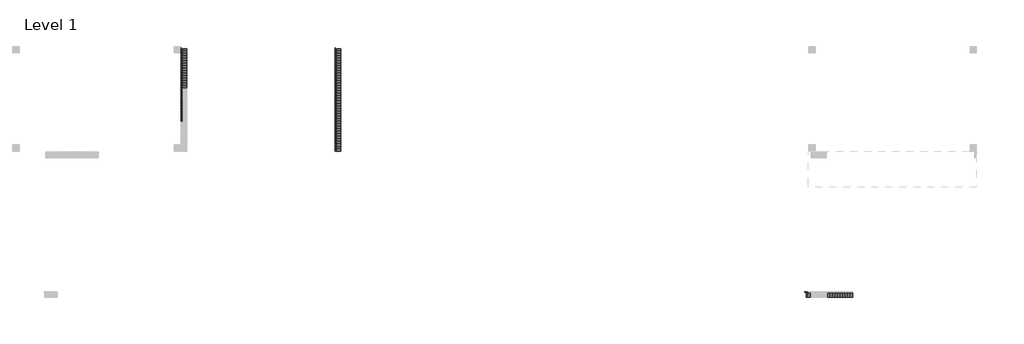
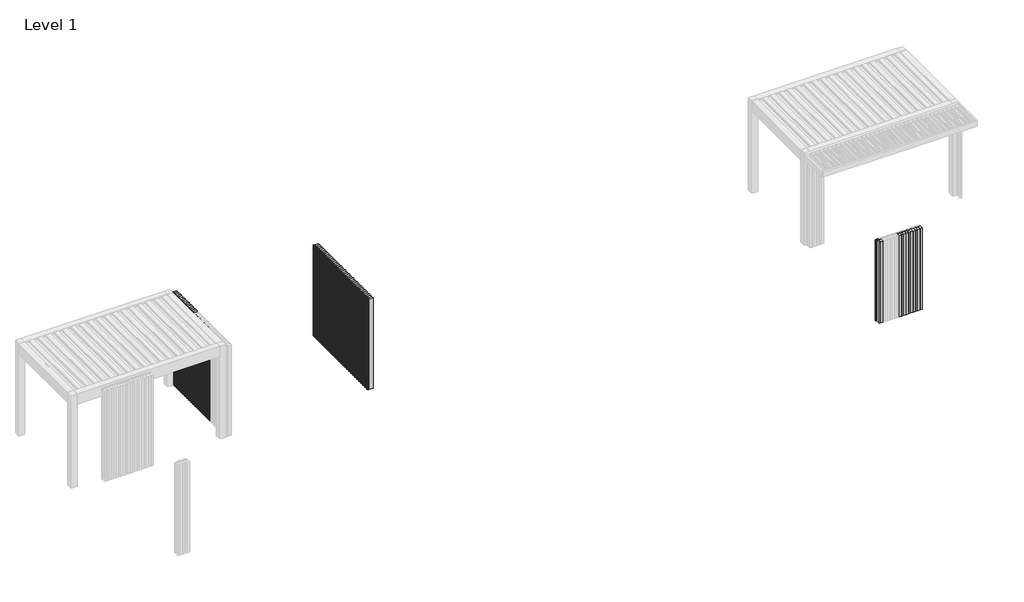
# One storey, part 2 of 80: 71 members, 69 plates.
"""IFC4 building model written with IfcOpenShell, lengths in millimetres."""

from ifc_helpers import new_model, si_unit, origin, place, context, project, spatial, transform, mapped, element, save
from components import rectangular_mullion_776733ef, rectangular_mullion_087e8397, rectangular_mullion_0795b381, empty_system_panel_empty_5508d8ad, empty_system_panel_empty_aff67664, empty_system_panel_empty_7c19e3ee, empty_system_panel_empty_b4a5b46b, empty_system_panel_empty_2ee623c3

model = new_model("IFC4")

# Units and contexts
model_context = context("Model", 3, world=origin())
ifc_project = project(units=[si_unit("LENGTHUNIT", "METRE", prefix="MILLI")], contexts=[model_context])

# Site, building, storey
site = spatial("IfcSite", under=ifc_project)
building = spatial("IfcBuilding", under=site)
storey = spatial("IfcBuildingStorey", under=building, Name="Level 1", Elevation=0.0)

# Members
placement = place(None, origin())
rectangular_mullion_shape = rectangular_mullion_776733ef(model_context)
element("IfcMember", 1, ObjectType="Rectangular Mullion : Renson_Linarte_LA-E25-01 Zone B", at=placement, inside=storey, context=model_context, shape_type="MappedRepresentation", body=[
    mapped(rectangular_mullion_shape, transform((386975.5749426, -17757.8406312, 0.0), x_axis=(0.0, 1.0, 0.0), y_axis=(1.0, 0.0, 0.0), z_axis=(0.0, 0.0, -1.0))),
])
element("IfcMember", 2, ObjectType="Rectangular Mullion : Renson_Linarte_LA-E25-01 Zone B", at=placement, inside=storey, context=model_context, shape_type="MappedRepresentation", body=[
    mapped(rectangular_mullion_shape, transform((386975.5749426, -17697.8406312, 0.0), x_axis=(0.0, 1.0, 0.0), y_axis=(1.0, 0.0, 0.0), z_axis=(0.0, 0.0, -1.0))),
])
element("IfcMember", 3, ObjectType="Rectangular Mullion : Renson_Linarte_LA-E25-01 Zone B", at=placement, inside=storey, context=model_context, shape_type="MappedRepresentation", body=[
    mapped(rectangular_mullion_shape, transform((386975.5749426, -17637.8406312, 0.0), x_axis=(0.0, 1.0, 0.0), y_axis=(1.0, 0.0, 0.0), z_axis=(0.0, 0.0, -1.0))),
])
element("IfcMember", 4, ObjectType="Rectangular Mullion : Renson_Linarte_LA-E25-01 Zone B", at=placement, inside=storey, context=model_context, shape_type="MappedRepresentation", body=[
    mapped(rectangular_mullion_shape, transform((386975.5749426, -17577.8406312, 0.0), x_axis=(0.0, 1.0, 0.0), y_axis=(1.0, 0.0, 0.0), z_axis=(0.0, 0.0, -1.0))),
])
element("IfcMember", 5, ObjectType="Rectangular Mullion : Renson_Linarte_LA-E25-01 Zone B", at=placement, inside=storey, context=model_context, shape_type="MappedRepresentation", body=[
    mapped(rectangular_mullion_shape, transform((386975.5749426, -17517.8406312, 0.0), x_axis=(0.0, 1.0, 0.0), y_axis=(1.0, 0.0, 0.0), z_axis=(0.0, 0.0, -1.0))),
])
element("IfcMember", 6, ObjectType="Rectangular Mullion : Renson_Linarte_LA-E25-01 Zone B", at=placement, inside=storey, context=model_context, shape_type="MappedRepresentation", body=[
    mapped(rectangular_mullion_shape, transform((386975.5749426, -17457.8406312, 0.0), x_axis=(0.0, 1.0, 0.0), y_axis=(1.0, 0.0, 0.0), z_axis=(0.0, 0.0, -1.0))),
])
element("IfcMember", 7, ObjectType="Rectangular Mullion : Renson_Linarte_LA-E25-01 Zone B", at=placement, inside=storey, context=model_context, shape_type="MappedRepresentation", body=[
    mapped(rectangular_mullion_shape, transform((386975.5749426, -17397.8406312, 0.0), x_axis=(0.0, 1.0, 0.0), y_axis=(1.0, 0.0, 0.0), z_axis=(0.0, 0.0, -1.0))),
])
element("IfcMember", 8, ObjectType="Rectangular Mullion : Renson_Linarte_LA-E25-01 Zone B", at=placement, inside=storey, context=model_context, shape_type="MappedRepresentation", body=[
    mapped(rectangular_mullion_shape, transform((386975.5749426, -17337.8406312, 0.0), x_axis=(0.0, 1.0, 0.0), y_axis=(1.0, 0.0, 0.0), z_axis=(0.0, 0.0, -1.0))),
])
element("IfcMember", 9, ObjectType="Rectangular Mullion : Renson_Linarte_LA-E25-01 Zone B", at=placement, inside=storey, context=model_context, shape_type="MappedRepresentation", body=[
    mapped(rectangular_mullion_shape, transform((386975.5749426, -17277.8406312, 0.0), x_axis=(0.0, 1.0, 0.0), y_axis=(1.0, 0.0, 0.0), z_axis=(0.0, 0.0, -1.0))),
])
element("IfcMember", 10, ObjectType="Rectangular Mullion : Renson_Linarte_LA-E25-01 Zone B", at=placement, inside=storey, context=model_context, shape_type="MappedRepresentation", body=[
    mapped(rectangular_mullion_shape, transform((386975.5749426, -17217.8406312, 0.0), x_axis=(0.0, 1.0, 0.0), y_axis=(1.0, 0.0, 0.0), z_axis=(0.0, 0.0, -1.0))),
])
element("IfcMember", 11, ObjectType="Rectangular Mullion : Renson_Linarte_LA-E25-01 Zone B", at=placement, inside=storey, context=model_context, shape_type="MappedRepresentation", body=[
    mapped(rectangular_mullion_shape, transform((386975.5749426, -17157.8406312, 0.0), x_axis=(0.0, 1.0, 0.0), y_axis=(1.0, 0.0, 0.0), z_axis=(0.0, 0.0, -1.0))),
])
element("IfcMember", 12, ObjectType="Rectangular Mullion : Renson_Linarte_LA-E25-01 Zone B", at=placement, inside=storey, context=model_context, shape_type="MappedRepresentation", body=[
    mapped(rectangular_mullion_shape, transform((386975.5749426, -17097.8406312, 0.0), x_axis=(0.0, 1.0, 0.0), y_axis=(1.0, 0.0, 0.0), z_axis=(0.0, 0.0, -1.0))),
])
element("IfcMember", 13, ObjectType="Rectangular Mullion : Renson_Linarte_LA-E25-01 Zone B", at=placement, inside=storey, context=model_context, shape_type="MappedRepresentation", body=[
    mapped(rectangular_mullion_shape, transform((386975.5749426, -17037.8406312, 0.0), x_axis=(0.0, 1.0, 0.0), y_axis=(1.0, 0.0, 0.0), z_axis=(0.0, 0.0, -1.0))),
])
element("IfcMember", 14, ObjectType="Rectangular Mullion : Renson_Linarte_LA-E25-01 Zone B", at=placement, inside=storey, context=model_context, shape_type="MappedRepresentation", body=[
    mapped(rectangular_mullion_shape, transform((386975.5749426, -16977.8406312, 0.0), x_axis=(0.0, 1.0, 0.0), y_axis=(1.0, 0.0, 0.0), z_axis=(0.0, 0.0, -1.0))),
])
element("IfcMember", 15, ObjectType="Rectangular Mullion : Renson_Linarte_LA-E25-01 Zone B", at=placement, inside=storey, context=model_context, shape_type="MappedRepresentation", body=[
    mapped(rectangular_mullion_shape, transform((386975.5749426, -16917.8406312, 0.0), x_axis=(0.0, 1.0, 0.0), y_axis=(1.0, 0.0, 0.0), z_axis=(0.0, 0.0, -1.0))),
])
element("IfcMember", 16, ObjectType="Rectangular Mullion : Renson_Linarte_LA-E25-01 Zone B", at=placement, inside=storey, context=model_context, shape_type="MappedRepresentation", body=[
    mapped(rectangular_mullion_shape, transform((386975.5749426, -16857.8406312, 0.0), x_axis=(0.0, 1.0, 0.0), y_axis=(1.0, 0.0, 0.0), z_axis=(0.0, 0.0, -1.0))),
])
element("IfcMember", 17, ObjectType="Rectangular Mullion : Renson_Linarte_LA-E25-01 Zone B", at=placement, inside=storey, context=model_context, shape_type="MappedRepresentation", body=[
    mapped(rectangular_mullion_shape, transform((386975.5749426, -16797.8406312, 0.0), x_axis=(0.0, 1.0, 0.0), y_axis=(1.0, 0.0, 0.0), z_axis=(0.0, 0.0, -1.0))),
])
element("IfcMember", 18, ObjectType="Rectangular Mullion : Renson_Linarte_LA-E25-01 Zone B", at=placement, inside=storey, context=model_context, shape_type="MappedRepresentation", body=[
    mapped(rectangular_mullion_shape, transform((386975.5749426, -16737.8406312, 0.0), x_axis=(0.0, 1.0, 0.0), y_axis=(1.0, 0.0, 0.0), z_axis=(0.0, 0.0, -1.0))),
])
element("IfcMember", 19, ObjectType="Rectangular Mullion : Renson_Linarte_LA-E25-01 Zone B", at=placement, inside=storey, context=model_context, shape_type="MappedRepresentation", body=[
    mapped(rectangular_mullion_shape, transform((386975.5749426, -16677.8406312, 0.0), x_axis=(0.0, 1.0, 0.0), y_axis=(1.0, 0.0, 0.0), z_axis=(0.0, 0.0, -1.0))),
])
element("IfcMember", 20, ObjectType="Rectangular Mullion : Renson_Linarte_LA-E25-01 Zone B", at=placement, inside=storey, context=model_context, shape_type="MappedRepresentation", body=[
    mapped(rectangular_mullion_shape, transform((386975.5749426, -16617.8406312, 0.0), x_axis=(0.0, 1.0, 0.0), y_axis=(1.0, 0.0, 0.0), z_axis=(0.0, 0.0, -1.0))),
])
element("IfcMember", 21, ObjectType="Rectangular Mullion : Renson_Linarte_LA-E25-01 Zone B", at=placement, inside=storey, context=model_context, shape_type="MappedRepresentation", body=[
    mapped(rectangular_mullion_shape, transform((386975.5749426, -16557.8406312, 0.0), x_axis=(0.0, 1.0, 0.0), y_axis=(1.0, 0.0, 0.0), z_axis=(0.0, 0.0, -1.0))),
])
element("IfcMember", 22, ObjectType="Rectangular Mullion : Renson_Linarte_LA-E25-01 Zone B", at=placement, inside=storey, context=model_context, shape_type="MappedRepresentation", body=[
    mapped(rectangular_mullion_shape, transform((386975.5749426, -16497.8406312, 0.0), x_axis=(0.0, 1.0, 0.0), y_axis=(1.0, 0.0, 0.0), z_axis=(0.0, 0.0, -1.0))),
])
element("IfcMember", 23, ObjectType="Rectangular Mullion : Renson_Linarte_LA-E25-01 Zone B", at=placement, inside=storey, context=model_context, shape_type="MappedRepresentation", body=[
    mapped(rectangular_mullion_shape, transform((386975.5749426, -16437.8406312, 0.0), x_axis=(0.0, 1.0, 0.0), y_axis=(1.0, 0.0, 0.0), z_axis=(0.0, 0.0, -1.0))),
])
element("IfcMember", 24, ObjectType="Rectangular Mullion : Renson_Linarte_LA-E25-01 Zone B", at=placement, inside=storey, context=model_context, shape_type="MappedRepresentation", body=[
    mapped(rectangular_mullion_shape, transform((386975.5749426, -16377.8406312, 0.0), x_axis=(0.0, 1.0, 0.0), y_axis=(1.0, 0.0, 0.0), z_axis=(0.0, 0.0, -1.0))),
])
element("IfcMember", 25, ObjectType="Rectangular Mullion : Renson_Linarte_LA-E25-01 Zone B", at=placement, inside=storey, context=model_context, shape_type="MappedRepresentation", body=[
    mapped(rectangular_mullion_shape, transform((386975.5749426, -16317.8406312, 0.0), x_axis=(0.0, 1.0, 0.0), y_axis=(1.0, 0.0, 0.0), z_axis=(0.0, 0.0, -1.0))),
])
element("IfcMember", 26, ObjectType="Rectangular Mullion : Renson_Linarte_LA-E25-01 Zone B", at=placement, inside=storey, context=model_context, shape_type="MappedRepresentation", body=[
    mapped(rectangular_mullion_shape, transform((386975.5749426, -16257.8406312, 0.0), x_axis=(0.0, 1.0, 0.0), y_axis=(1.0, 0.0, 0.0), z_axis=(0.0, 0.0, -1.0))),
])
element("IfcMember", 27, ObjectType="Rectangular Mullion : Renson_Linarte_LA-E25-01 Zone B", at=placement, inside=storey, context=model_context, shape_type="MappedRepresentation", body=[
    mapped(rectangular_mullion_shape, transform((386975.5749426, -16197.8406312, 0.0), x_axis=(0.0, 1.0, 0.0), y_axis=(1.0, 0.0, 0.0), z_axis=(0.0, 0.0, -1.0))),
])
element("IfcMember", 28, ObjectType="Rectangular Mullion : Renson_Linarte_LA-E25-01 Zone B", at=placement, inside=storey, context=model_context, shape_type="MappedRepresentation", body=[
    mapped(rectangular_mullion_shape, transform((386975.5749426, -16137.8406312, 0.0), x_axis=(0.0, 1.0, 0.0), y_axis=(1.0, 0.0, 0.0), z_axis=(0.0, 0.0, -1.0))),
])
element("IfcMember", 29, ObjectType="Rectangular Mullion : Renson_Linarte_LA-E25-01 Zone B", at=placement, inside=storey, context=model_context, shape_type="MappedRepresentation", body=[
    mapped(rectangular_mullion_shape, transform((386975.5749426, -16077.8406312, 0.0), x_axis=(0.0, 1.0, 0.0), y_axis=(1.0, 0.0, 0.0), z_axis=(0.0, 0.0, -1.0))),
])
element("IfcMember", 30, ObjectType="Rectangular Mullion : Renson_Linarte_LA-E25-01 Zone B", at=placement, inside=storey, context=model_context, shape_type="MappedRepresentation", body=[
    mapped(rectangular_mullion_shape, transform((390652.5302047, -18357.8406312, 0.0), x_axis=(0.0, 1.0, 0.0), y_axis=(1.0, 0.0, 0.0), z_axis=(0.0, 0.0, -1.0))),
])
element("IfcMember", 31, ObjectType="Rectangular Mullion : Renson_Linarte_LA-E25-01 Zone B", at=placement, inside=storey, context=model_context, shape_type="MappedRepresentation", body=[
    mapped(rectangular_mullion_shape, transform((390652.5302047, -18297.8406312, 0.0), x_axis=(0.0, 1.0, 0.0), y_axis=(1.0, 0.0, 0.0), z_axis=(0.0, 0.0, -1.0))),
])
element("IfcMember", 32, ObjectType="Rectangular Mullion : Renson_Linarte_LA-E25-01 Zone B", at=placement, inside=storey, context=model_context, shape_type="MappedRepresentation", body=[
    mapped(rectangular_mullion_shape, transform((390652.5302047, -18237.8406312, 0.0), x_axis=(0.0, 1.0, 0.0), y_axis=(1.0, 0.0, 0.0), z_axis=(0.0, 0.0, -1.0))),
])
element("IfcMember", 33, ObjectType="Rectangular Mullion : Renson_Linarte_LA-E25-01 Zone B", at=placement, inside=storey, context=model_context, shape_type="MappedRepresentation", body=[
    mapped(rectangular_mullion_shape, transform((390652.5302047, -18177.8406312, 0.0), x_axis=(0.0, 1.0, 0.0), y_axis=(1.0, 0.0, 0.0), z_axis=(0.0, 0.0, -1.0))),
])
element("IfcMember", 34, ObjectType="Rectangular Mullion : Renson_Linarte_LA-E25-01 Zone B", at=placement, inside=storey, context=model_context, shape_type="MappedRepresentation", body=[
    mapped(rectangular_mullion_shape, transform((390652.5302047, -18117.8406312, 0.0), x_axis=(0.0, 1.0, 0.0), y_axis=(1.0, 0.0, 0.0), z_axis=(0.0, 0.0, -1.0))),
])
element("IfcMember", 35, ObjectType="Rectangular Mullion : Renson_Linarte_LA-E25-01 Zone B", at=placement, inside=storey, context=model_context, shape_type="MappedRepresentation", body=[
    mapped(rectangular_mullion_shape, transform((390652.5302047, -18057.8406312, 0.0), x_axis=(0.0, 1.0, 0.0), y_axis=(1.0, 0.0, 0.0), z_axis=(0.0, 0.0, -1.0))),
])
element("IfcMember", 36, ObjectType="Rectangular Mullion : Renson_Linarte_LA-E25-01 Zone B", at=placement, inside=storey, context=model_context, shape_type="MappedRepresentation", body=[
    mapped(rectangular_mullion_shape, transform((390652.5302047, -17997.8406312, 0.0), x_axis=(0.0, 1.0, 0.0), y_axis=(1.0, 0.0, 0.0), z_axis=(0.0, 0.0, -1.0))),
])
element("IfcMember", 37, ObjectType="Rectangular Mullion : Renson_Linarte_LA-E25-01 Zone B", at=placement, inside=storey, context=model_context, shape_type="MappedRepresentation", body=[
    mapped(rectangular_mullion_shape, transform((390652.5302047, -17937.8406312, 0.0), x_axis=(0.0, 1.0, 0.0), y_axis=(1.0, 0.0, 0.0), z_axis=(0.0, 0.0, -1.0))),
])
element("IfcMember", 38, ObjectType="Rectangular Mullion : Renson_Linarte_LA-E25-01 Zone B", at=placement, inside=storey, context=model_context, shape_type="MappedRepresentation", body=[
    mapped(rectangular_mullion_shape, transform((390652.5302047, -17877.8406312, 0.0), x_axis=(0.0, 1.0, 0.0), y_axis=(1.0, 0.0, 0.0), z_axis=(0.0, 0.0, -1.0))),
])
element("IfcMember", 39, ObjectType="Rectangular Mullion : Renson_Linarte_LA-E25-01 Zone B", at=placement, inside=storey, context=model_context, shape_type="MappedRepresentation", body=[
    mapped(rectangular_mullion_shape, transform((390652.5302047, -17817.8406312, 0.0), x_axis=(0.0, 1.0, 0.0), y_axis=(1.0, 0.0, 0.0), z_axis=(0.0, 0.0, -1.0))),
])
element("IfcMember", 40, ObjectType="Rectangular Mullion : Renson_Linarte_LA-E25-01 Zone B", at=placement, inside=storey, context=model_context, shape_type="MappedRepresentation", body=[
    mapped(rectangular_mullion_shape, transform((390652.5302047, -17757.8406312, 0.0), x_axis=(0.0, 1.0, 0.0), y_axis=(1.0, 0.0, 0.0), z_axis=(0.0, 0.0, -1.0))),
])
element("IfcMember", 41, ObjectType="Rectangular Mullion : Renson_Linarte_LA-E25-01 Zone B", at=placement, inside=storey, context=model_context, shape_type="MappedRepresentation", body=[
    mapped(rectangular_mullion_shape, transform((390652.5302047, -17697.8406312, 0.0), x_axis=(0.0, 1.0, 0.0), y_axis=(1.0, 0.0, 0.0), z_axis=(0.0, 0.0, -1.0))),
])
element("IfcMember", 42, ObjectType="Rectangular Mullion : Renson_Linarte_LA-E25-01 Zone B", at=placement, inside=storey, context=model_context, shape_type="MappedRepresentation", body=[
    mapped(rectangular_mullion_shape, transform((390652.5302047, -17637.8406312, 0.0), x_axis=(0.0, 1.0, 0.0), y_axis=(1.0, 0.0, 0.0), z_axis=(0.0, 0.0, -1.0))),
])
element("IfcMember", 43, ObjectType="Rectangular Mullion : Renson_Linarte_LA-E25-01 Zone B", at=placement, inside=storey, context=model_context, shape_type="MappedRepresentation", body=[
    mapped(rectangular_mullion_shape, transform((390652.5302047, -17577.8406312, 0.0), x_axis=(0.0, 1.0, 0.0), y_axis=(1.0, 0.0, 0.0), z_axis=(0.0, 0.0, -1.0))),
])
element("IfcMember", 44, ObjectType="Rectangular Mullion : Renson_Linarte_LA-E25-01 Zone B", at=placement, inside=storey, context=model_context, shape_type="MappedRepresentation", body=[
    mapped(rectangular_mullion_shape, transform((390652.5302047, -17517.8406312, 0.0), x_axis=(0.0, 1.0, 0.0), y_axis=(1.0, 0.0, 0.0), z_axis=(0.0, 0.0, -1.0))),
])
element("IfcMember", 45, ObjectType="Rectangular Mullion : Renson_Linarte_LA-E25-01 Zone B", at=placement, inside=storey, context=model_context, shape_type="MappedRepresentation", body=[
    mapped(rectangular_mullion_shape, transform((390652.5302047, -17457.8406312, 0.0), x_axis=(0.0, 1.0, 0.0), y_axis=(1.0, 0.0, 0.0), z_axis=(0.0, 0.0, -1.0))),
])
element("IfcMember", 46, ObjectType="Rectangular Mullion : Renson_Linarte_LA-E25-01 Zone B", at=placement, inside=storey, context=model_context, shape_type="MappedRepresentation", body=[
    mapped(rectangular_mullion_shape, transform((390652.5302047, -17397.8406312, 0.0), x_axis=(0.0, 1.0, 0.0), y_axis=(1.0, 0.0, 0.0), z_axis=(0.0, 0.0, -1.0))),
])
element("IfcMember", 47, ObjectType="Rectangular Mullion : Renson_Linarte_LA-E25-01 Zone B", at=placement, inside=storey, context=model_context, shape_type="MappedRepresentation", body=[
    mapped(rectangular_mullion_shape, transform((390652.5302047, -17337.8406312, 0.0), x_axis=(0.0, 1.0, 0.0), y_axis=(1.0, 0.0, 0.0), z_axis=(0.0, 0.0, -1.0))),
])
element("IfcMember", 48, ObjectType="Rectangular Mullion : Renson_Linarte_LA-E25-01 Zone B", at=placement, inside=storey, context=model_context, shape_type="MappedRepresentation", body=[
    mapped(rectangular_mullion_shape, transform((390652.5302047, -17277.8406312, 0.0), x_axis=(0.0, 1.0, 0.0), y_axis=(1.0, 0.0, 0.0), z_axis=(0.0, 0.0, -1.0))),
])
element("IfcMember", 49, ObjectType="Rectangular Mullion : Renson_Linarte_LA-E25-01 Zone B", at=placement, inside=storey, context=model_context, shape_type="MappedRepresentation", body=[
    mapped(rectangular_mullion_shape, transform((390652.5302047, -17217.8406312, 0.0), x_axis=(0.0, 1.0, 0.0), y_axis=(1.0, 0.0, 0.0), z_axis=(0.0, 0.0, -1.0))),
])
element("IfcMember", 50, ObjectType="Rectangular Mullion : Renson_Linarte_LA-E25-01 Zone B", at=placement, inside=storey, context=model_context, shape_type="MappedRepresentation", body=[
    mapped(rectangular_mullion_shape, transform((390652.5302047, -17157.8406312, 0.0), x_axis=(0.0, 1.0, 0.0), y_axis=(1.0, 0.0, 0.0), z_axis=(0.0, 0.0, -1.0))),
])
element("IfcMember", 51, ObjectType="Rectangular Mullion : Renson_Linarte_LA-E25-01 Zone B", at=placement, inside=storey, context=model_context, shape_type="MappedRepresentation", body=[
    mapped(rectangular_mullion_shape, transform((390652.5302047, -17097.8406312, 0.0), x_axis=(0.0, 1.0, 0.0), y_axis=(1.0, 0.0, 0.0), z_axis=(0.0, 0.0, -1.0))),
])
element("IfcMember", 52, ObjectType="Rectangular Mullion : Renson_Linarte_LA-E25-01 Zone B", at=placement, inside=storey, context=model_context, shape_type="MappedRepresentation", body=[
    mapped(rectangular_mullion_shape, transform((390652.5302047, -17037.8406312, 0.0), x_axis=(0.0, 1.0, 0.0), y_axis=(1.0, 0.0, 0.0), z_axis=(0.0, 0.0, -1.0))),
])
element("IfcMember", 53, ObjectType="Rectangular Mullion : Renson_Linarte_LA-E25-01 Zone B", at=placement, inside=storey, context=model_context, shape_type="MappedRepresentation", body=[
    mapped(rectangular_mullion_shape, transform((390652.5302047, -16977.8406312, 0.0), x_axis=(0.0, 1.0, 0.0), y_axis=(1.0, 0.0, 0.0), z_axis=(0.0, 0.0, -1.0))),
])
element("IfcMember", 54, ObjectType="Rectangular Mullion : Renson_Linarte_LA-E25-01 Zone B", at=placement, inside=storey, context=model_context, shape_type="MappedRepresentation", body=[
    mapped(rectangular_mullion_shape, transform((390652.5302047, -16917.8406312, 0.0), x_axis=(0.0, 1.0, 0.0), y_axis=(1.0, 0.0, 0.0), z_axis=(0.0, 0.0, -1.0))),
])
element("IfcMember", 55, ObjectType="Rectangular Mullion : Renson_Linarte_LA-E25-01 Zone B", at=placement, inside=storey, context=model_context, shape_type="MappedRepresentation", body=[
    mapped(rectangular_mullion_shape, transform((390652.5302047, -16857.8406312, 0.0), x_axis=(0.0, 1.0, 0.0), y_axis=(1.0, 0.0, 0.0), z_axis=(0.0, 0.0, -1.0))),
])
element("IfcMember", 56, ObjectType="Rectangular Mullion : Renson_Linarte_LA-E25-01 Zone B", at=placement, inside=storey, context=model_context, shape_type="MappedRepresentation", body=[
    mapped(rectangular_mullion_shape, transform((390652.5302047, -16797.8406312, 0.0), x_axis=(0.0, 1.0, 0.0), y_axis=(1.0, 0.0, 0.0), z_axis=(0.0, 0.0, -1.0))),
])
element("IfcMember", 57, ObjectType="Rectangular Mullion : Renson_Linarte_LA-E25-01 Zone B", at=placement, inside=storey, context=model_context, shape_type="MappedRepresentation", body=[
    mapped(rectangular_mullion_shape, transform((390652.5302047, -16737.8406312, 0.0), x_axis=(0.0, 1.0, 0.0), y_axis=(1.0, 0.0, 0.0), z_axis=(0.0, 0.0, -1.0))),
])
element("IfcMember", 58, ObjectType="Rectangular Mullion : Renson_Linarte_LA-E25-01 Zone B", at=placement, inside=storey, context=model_context, shape_type="MappedRepresentation", body=[
    mapped(rectangular_mullion_shape, transform((390652.5302047, -16677.8406312, 0.0), x_axis=(0.0, 1.0, 0.0), y_axis=(1.0, 0.0, 0.0), z_axis=(0.0, 0.0, -1.0))),
])
element("IfcMember", 59, ObjectType="Rectangular Mullion : Renson_Linarte_LA-E25-01 Zone B", at=placement, inside=storey, context=model_context, shape_type="MappedRepresentation", body=[
    mapped(rectangular_mullion_shape, transform((390652.5302047, -16617.8406312, 0.0), x_axis=(0.0, 1.0, 0.0), y_axis=(1.0, 0.0, 0.0), z_axis=(0.0, 0.0, -1.0))),
])
element("IfcMember", 60, ObjectType="Rectangular Mullion : Renson_Linarte_LA-E25-01 Zone B", at=placement, inside=storey, context=model_context, shape_type="MappedRepresentation", body=[
    mapped(rectangular_mullion_shape, transform((390652.5302047, -16557.8406312, 0.0), x_axis=(0.0, 1.0, 0.0), y_axis=(1.0, 0.0, 0.0), z_axis=(0.0, 0.0, -1.0))),
])
element("IfcMember", 61, ObjectType="Rectangular Mullion : Renson_Linarte_LA-E25-01 Zone B", at=placement, inside=storey, context=model_context, shape_type="MappedRepresentation", body=[
    mapped(rectangular_mullion_shape, transform((390652.5302047, -16497.8406312, 0.0), x_axis=(0.0, 1.0, 0.0), y_axis=(1.0, 0.0, 0.0), z_axis=(0.0, 0.0, -1.0))),
])
element("IfcMember", 62, ObjectType="Rectangular Mullion : Renson_Linarte_LA-E25-01 Zone B", at=placement, inside=storey, context=model_context, shape_type="MappedRepresentation", body=[
    mapped(rectangular_mullion_shape, transform((390652.5302047, -16437.8406312, 0.0), x_axis=(0.0, 1.0, 0.0), y_axis=(1.0, 0.0, 0.0), z_axis=(0.0, 0.0, -1.0))),
])
element("IfcMember", 63, ObjectType="Rectangular Mullion : Renson_Linarte_LA-E25-01 Zone B", at=placement, inside=storey, context=model_context, shape_type="MappedRepresentation", body=[
    mapped(rectangular_mullion_shape, transform((390652.5302047, -16377.8406312, 0.0), x_axis=(0.0, 1.0, 0.0), y_axis=(1.0, 0.0, 0.0), z_axis=(0.0, 0.0, -1.0))),
])
element("IfcMember", 64, ObjectType="Rectangular Mullion : Renson_Linarte_LA-E25-01 Zone B", at=placement, inside=storey, context=model_context, shape_type="MappedRepresentation", body=[
    mapped(rectangular_mullion_shape, transform((390652.5302047, -16317.8406312, 0.0), x_axis=(0.0, 1.0, 0.0), y_axis=(1.0, 0.0, 0.0), z_axis=(0.0, 0.0, -1.0))),
])
element("IfcMember", 65, ObjectType="Rectangular Mullion : Renson_Linarte_LA-E25-01 Zone B", at=placement, inside=storey, context=model_context, shape_type="MappedRepresentation", body=[
    mapped(rectangular_mullion_shape, transform((390652.5302047, -16257.8406312, 0.0), x_axis=(0.0, 1.0, 0.0), y_axis=(1.0, 0.0, 0.0), z_axis=(0.0, 0.0, -1.0))),
])
element("IfcMember", 66, ObjectType="Rectangular Mullion : Renson_Linarte_LA-E25-01 Zone B", at=placement, inside=storey, context=model_context, shape_type="MappedRepresentation", body=[
    mapped(rectangular_mullion_shape, transform((390652.5302047, -16197.8406312, 0.0), x_axis=(0.0, 1.0, 0.0), y_axis=(1.0, 0.0, 0.0), z_axis=(0.0, 0.0, -1.0))),
])
element("IfcMember", 67, ObjectType="Rectangular Mullion : Renson_Linarte_LA-E25-01 Zone B", at=placement, inside=storey, context=model_context, shape_type="MappedRepresentation", body=[
    mapped(rectangular_mullion_shape, transform((390652.5302047, -16137.8406312, 0.0), x_axis=(0.0, 1.0, 0.0), y_axis=(1.0, 0.0, 0.0), z_axis=(0.0, 0.0, -1.0))),
])
element("IfcMember", 68, ObjectType="Rectangular Mullion : Renson_Linarte_LA-E25-01 Zone B", at=placement, inside=storey, context=model_context, shape_type="MappedRepresentation", body=[
    mapped(rectangular_mullion_shape, transform((390652.5302047, -16077.8406312, 0.0), x_axis=(0.0, 1.0, 0.0), y_axis=(1.0, 0.0, 0.0), z_axis=(0.0, 0.0, -1.0))),
])
element("IfcMember", 69, ObjectType="Rectangular Mullion : Renson_Linarte_LA-E25-01 Zone B", at=placement, inside=storey, context=model_context, shape_type="MappedRepresentation", body=[
    mapped(rectangular_mullion_shape, transform((390652.5302047, -18417.8406312, 0.0), x_axis=(0.0, 1.0, 0.0), y_axis=(1.0, 0.0, 0.0), z_axis=(0.0, 0.0, -1.0))),
])
rectangular_mullion_2_shape = rectangular_mullion_087e8397(model_context)
element("IfcMember", 70, ObjectType="Rectangular Mullion : Renson_Linarte_LA-E25-01 Zone B", at=placement, inside=storey, context=model_context, shape_type="MappedRepresentation", body=[
    mapped(rectangular_mullion_2_shape, transform((390652.5302047, -18477.8406315, 2475.0), x_axis=(0.0, -1.0, 0.0), y_axis=(1.0, 0.0, 0.0), z_axis=(0.0, 0.0, 1.0))),
])
rectangular_mullion_3_shape = rectangular_mullion_0795b381(model_context)
element("IfcMember", 71, ObjectType="Rectangular Mullion : Renson_Linarte_LA-E25-01 Zone B", at=placement, inside=storey, context=model_context, shape_type="MappedRepresentation", body=[
    mapped(rectangular_mullion_3_shape, transform((401949.0900204, -21816.7045876, 0.0), x_axis=(-1.0, 0.0, 0.0), y_axis=(0.0, 1.0, 0.0), z_axis=(0.0, 0.0, -1.0))),
])

# Plates
empty_system_panel_empty_shape = empty_system_panel_empty_5508d8ad(model_context)
element("IfcPlate", 72, ObjectType="Empty System Panel : Empty", at=placement, inside=storey, context=model_context, shape_type="MappedRepresentation", body=[
    mapped(empty_system_panel_empty_shape, transform((386975.5749426, -16947.8406312, 0.0), x_axis=(0.0, 1.0, 0.0), y_axis=(-1.0, 0.0, 0.0), z_axis=(0.0, 0.0, 1.0))),
])
element("IfcPlate", 73, ObjectType="Empty System Panel : Empty", at=placement, inside=storey, context=model_context, shape_type="MappedRepresentation", body=[
    mapped(empty_system_panel_empty_shape, transform((386975.5749426, -16887.8406312, 0.0), x_axis=(0.0, 1.0, 0.0), y_axis=(-1.0, 0.0, 0.0), z_axis=(0.0, 0.0, 1.0))),
])
element("IfcPlate", 74, ObjectType="Empty System Panel : Empty", at=placement, inside=storey, context=model_context, shape_type="MappedRepresentation", body=[
    mapped(empty_system_panel_empty_shape, transform((386975.5749426, -16827.8406312, 0.0), x_axis=(0.0, 1.0, 0.0), y_axis=(-1.0, 0.0, 0.0), z_axis=(0.0, 0.0, 1.0))),
])
element("IfcPlate", 75, ObjectType="Empty System Panel : Empty", at=placement, inside=storey, context=model_context, shape_type="MappedRepresentation", body=[
    mapped(empty_system_panel_empty_shape, transform((386975.5749426, -16767.8406312, 0.0), x_axis=(0.0, 1.0, 0.0), y_axis=(-1.0, 0.0, 0.0), z_axis=(0.0, 0.0, 1.0))),
])
element("IfcPlate", 76, ObjectType="Empty System Panel : Empty", at=placement, inside=storey, context=model_context, shape_type="MappedRepresentation", body=[
    mapped(empty_system_panel_empty_shape, transform((386975.5749426, -16707.8406312, 0.0), x_axis=(0.0, 1.0, 0.0), y_axis=(-1.0, 0.0, 0.0), z_axis=(0.0, 0.0, 1.0))),
])
element("IfcPlate", 77, ObjectType="Empty System Panel : Empty", at=placement, inside=storey, context=model_context, shape_type="MappedRepresentation", body=[
    mapped(empty_system_panel_empty_shape, transform((386975.5749426, -16647.8406312, 0.0), x_axis=(0.0, 1.0, 0.0), y_axis=(-1.0, 0.0, 0.0), z_axis=(0.0, 0.0, 1.0))),
])
element("IfcPlate", 78, ObjectType="Empty System Panel : Empty", at=placement, inside=storey, context=model_context, shape_type="MappedRepresentation", body=[
    mapped(empty_system_panel_empty_shape, transform((386975.5749426, -16587.8406312, 0.0), x_axis=(0.0, 1.0, 0.0), y_axis=(-1.0, 0.0, 0.0), z_axis=(0.0, 0.0, 1.0))),
])
element("IfcPlate", 79, ObjectType="Empty System Panel : Empty", at=placement, inside=storey, context=model_context, shape_type="MappedRepresentation", body=[
    mapped(empty_system_panel_empty_shape, transform((386975.5749426, -16527.8406312, 0.0), x_axis=(0.0, 1.0, 0.0), y_axis=(-1.0, 0.0, 0.0), z_axis=(0.0, 0.0, 1.0))),
])
element("IfcPlate", 80, ObjectType="Empty System Panel : Empty", at=placement, inside=storey, context=model_context, shape_type="MappedRepresentation", body=[
    mapped(empty_system_panel_empty_shape, transform((386975.5749426, -16467.8406312, 0.0), x_axis=(0.0, 1.0, 0.0), y_axis=(-1.0, 0.0, 0.0), z_axis=(0.0, 0.0, 1.0))),
])
element("IfcPlate", 81, ObjectType="Empty System Panel : Empty", at=placement, inside=storey, context=model_context, shape_type="MappedRepresentation", body=[
    mapped(empty_system_panel_empty_shape, transform((386975.5749426, -16407.8406312, 0.0), x_axis=(0.0, 1.0, 0.0), y_axis=(-1.0, 0.0, 0.0), z_axis=(0.0, 0.0, 1.0))),
])
element("IfcPlate", 82, ObjectType="Empty System Panel : Empty", at=placement, inside=storey, context=model_context, shape_type="MappedRepresentation", body=[
    mapped(empty_system_panel_empty_shape, transform((386975.5749426, -16347.8406312, 0.0), x_axis=(0.0, 1.0, 0.0), y_axis=(-1.0, 0.0, 0.0), z_axis=(0.0, 0.0, 1.0))),
])
element("IfcPlate", 83, ObjectType="Empty System Panel : Empty", at=placement, inside=storey, context=model_context, shape_type="MappedRepresentation", body=[
    mapped(empty_system_panel_empty_shape, transform((386975.5749426, -16287.8406312, 0.0), x_axis=(0.0, 1.0, 0.0), y_axis=(-1.0, 0.0, 0.0), z_axis=(0.0, 0.0, 1.0))),
])
element("IfcPlate", 84, ObjectType="Empty System Panel : Empty", at=placement, inside=storey, context=model_context, shape_type="MappedRepresentation", body=[
    mapped(empty_system_panel_empty_shape, transform((386975.5749426, -16227.8406312, 0.0), x_axis=(0.0, 1.0, 0.0), y_axis=(-1.0, 0.0, 0.0), z_axis=(0.0, 0.0, 1.0))),
])
element("IfcPlate", 85, ObjectType="Empty System Panel : Empty", at=placement, inside=storey, context=model_context, shape_type="MappedRepresentation", body=[
    mapped(empty_system_panel_empty_shape, transform((386975.5749426, -16167.8406312, 0.0), x_axis=(0.0, 1.0, 0.0), y_axis=(-1.0, 0.0, 0.0), z_axis=(0.0, 0.0, 1.0))),
])
element("IfcPlate", 86, ObjectType="Empty System Panel : Empty", at=placement, inside=storey, context=model_context, shape_type="MappedRepresentation", body=[
    mapped(empty_system_panel_empty_shape, transform((386975.5749426, -16107.8406312, 0.0), x_axis=(0.0, 1.0, 0.0), y_axis=(-1.0, 0.0, 0.0), z_axis=(0.0, 0.0, 1.0))),
])
element("IfcPlate", 87, ObjectType="Empty System Panel : Empty", at=placement, inside=storey, context=model_context, shape_type="MappedRepresentation", body=[
    mapped(empty_system_panel_empty_shape, transform((390652.5302047, -18327.8406312, 0.0), x_axis=(0.0, 1.0, 0.0), y_axis=(-1.0, 0.0, 0.0), z_axis=(0.0, 0.0, 1.0))),
])
element("IfcPlate", 88, ObjectType="Empty System Panel : Empty", at=placement, inside=storey, context=model_context, shape_type="MappedRepresentation", body=[
    mapped(empty_system_panel_empty_shape, transform((390652.5302047, -18267.8406312, 0.0), x_axis=(0.0, 1.0, 0.0), y_axis=(-1.0, 0.0, 0.0), z_axis=(0.0, 0.0, 1.0))),
])
element("IfcPlate", 89, ObjectType="Empty System Panel : Empty", at=placement, inside=storey, context=model_context, shape_type="MappedRepresentation", body=[
    mapped(empty_system_panel_empty_shape, transform((390652.5302047, -18207.8406312, 0.0), x_axis=(0.0, 1.0, 0.0), y_axis=(-1.0, 0.0, 0.0), z_axis=(0.0, 0.0, 1.0))),
])
element("IfcPlate", 90, ObjectType="Empty System Panel : Empty", at=placement, inside=storey, context=model_context, shape_type="MappedRepresentation", body=[
    mapped(empty_system_panel_empty_shape, transform((390652.5302047, -18147.8406312, 0.0), x_axis=(0.0, 1.0, 0.0), y_axis=(-1.0, 0.0, 0.0), z_axis=(0.0, 0.0, 1.0))),
])
element("IfcPlate", 91, ObjectType="Empty System Panel : Empty", at=placement, inside=storey, context=model_context, shape_type="MappedRepresentation", body=[
    mapped(empty_system_panel_empty_shape, transform((390652.5302047, -18087.8406312, 0.0), x_axis=(0.0, 1.0, 0.0), y_axis=(-1.0, 0.0, 0.0), z_axis=(0.0, 0.0, 1.0))),
])
element("IfcPlate", 92, ObjectType="Empty System Panel : Empty", at=placement, inside=storey, context=model_context, shape_type="MappedRepresentation", body=[
    mapped(empty_system_panel_empty_shape, transform((390652.5302047, -18027.8406312, 0.0), x_axis=(0.0, 1.0, 0.0), y_axis=(-1.0, 0.0, 0.0), z_axis=(0.0, 0.0, 1.0))),
])
element("IfcPlate", 93, ObjectType="Empty System Panel : Empty", at=placement, inside=storey, context=model_context, shape_type="MappedRepresentation", body=[
    mapped(empty_system_panel_empty_shape, transform((390652.5302047, -17967.8406312, 0.0), x_axis=(0.0, 1.0, 0.0), y_axis=(-1.0, 0.0, 0.0), z_axis=(0.0, 0.0, 1.0))),
])
element("IfcPlate", 94, ObjectType="Empty System Panel : Empty", at=placement, inside=storey, context=model_context, shape_type="MappedRepresentation", body=[
    mapped(empty_system_panel_empty_shape, transform((390652.5302047, -17907.8406312, 0.0), x_axis=(0.0, 1.0, 0.0), y_axis=(-1.0, 0.0, 0.0), z_axis=(0.0, 0.0, 1.0))),
])
element("IfcPlate", 95, ObjectType="Empty System Panel : Empty", at=placement, inside=storey, context=model_context, shape_type="MappedRepresentation", body=[
    mapped(empty_system_panel_empty_shape, transform((390652.5302047, -17847.8406312, 0.0), x_axis=(0.0, 1.0, 0.0), y_axis=(-1.0, 0.0, 0.0), z_axis=(0.0, 0.0, 1.0))),
])
element("IfcPlate", 96, ObjectType="Empty System Panel : Empty", at=placement, inside=storey, context=model_context, shape_type="MappedRepresentation", body=[
    mapped(empty_system_panel_empty_shape, transform((390652.5302047, -17787.8406312, 0.0), x_axis=(0.0, 1.0, 0.0), y_axis=(-1.0, 0.0, 0.0), z_axis=(0.0, 0.0, 1.0))),
])
element("IfcPlate", 97, ObjectType="Empty System Panel : Empty", at=placement, inside=storey, context=model_context, shape_type="MappedRepresentation", body=[
    mapped(empty_system_panel_empty_shape, transform((390652.5302047, -17727.8406312, 0.0), x_axis=(0.0, 1.0, 0.0), y_axis=(-1.0, 0.0, 0.0), z_axis=(0.0, 0.0, 1.0))),
])
element("IfcPlate", 98, ObjectType="Empty System Panel : Empty", at=placement, inside=storey, context=model_context, shape_type="MappedRepresentation", body=[
    mapped(empty_system_panel_empty_shape, transform((390652.5302047, -17667.8406312, 0.0), x_axis=(0.0, 1.0, 0.0), y_axis=(-1.0, 0.0, 0.0), z_axis=(0.0, 0.0, 1.0))),
])
element("IfcPlate", 99, ObjectType="Empty System Panel : Empty", at=placement, inside=storey, context=model_context, shape_type="MappedRepresentation", body=[
    mapped(empty_system_panel_empty_shape, transform((390652.5302047, -17607.8406312, 0.0), x_axis=(0.0, 1.0, 0.0), y_axis=(-1.0, 0.0, 0.0), z_axis=(0.0, 0.0, 1.0))),
])
element("IfcPlate", 100, ObjectType="Empty System Panel : Empty", at=placement, inside=storey, context=model_context, shape_type="MappedRepresentation", body=[
    mapped(empty_system_panel_empty_shape, transform((390652.5302047, -17547.8406312, 0.0), x_axis=(0.0, 1.0, 0.0), y_axis=(-1.0, 0.0, 0.0), z_axis=(0.0, 0.0, 1.0))),
])
element("IfcPlate", 101, ObjectType="Empty System Panel : Empty", at=placement, inside=storey, context=model_context, shape_type="MappedRepresentation", body=[
    mapped(empty_system_panel_empty_shape, transform((390652.5302047, -17487.8406312, 0.0), x_axis=(0.0, 1.0, 0.0), y_axis=(-1.0, 0.0, 0.0), z_axis=(0.0, 0.0, 1.0))),
])
element("IfcPlate", 102, ObjectType="Empty System Panel : Empty", at=placement, inside=storey, context=model_context, shape_type="MappedRepresentation", body=[
    mapped(empty_system_panel_empty_shape, transform((390652.5302047, -17427.8406312, 0.0), x_axis=(0.0, 1.0, 0.0), y_axis=(-1.0, 0.0, 0.0), z_axis=(0.0, 0.0, 1.0))),
])
element("IfcPlate", 103, ObjectType="Empty System Panel : Empty", at=placement, inside=storey, context=model_context, shape_type="MappedRepresentation", body=[
    mapped(empty_system_panel_empty_shape, transform((390652.5302047, -17367.8406312, 0.0), x_axis=(0.0, 1.0, 0.0), y_axis=(-1.0, 0.0, 0.0), z_axis=(0.0, 0.0, 1.0))),
])
element("IfcPlate", 104, ObjectType="Empty System Panel : Empty", at=placement, inside=storey, context=model_context, shape_type="MappedRepresentation", body=[
    mapped(empty_system_panel_empty_shape, transform((390652.5302047, -17307.8406312, 0.0), x_axis=(0.0, 1.0, 0.0), y_axis=(-1.0, 0.0, 0.0), z_axis=(0.0, 0.0, 1.0))),
])
element("IfcPlate", 105, ObjectType="Empty System Panel : Empty", at=placement, inside=storey, context=model_context, shape_type="MappedRepresentation", body=[
    mapped(empty_system_panel_empty_shape, transform((390652.5302047, -17247.8406312, 0.0), x_axis=(0.0, 1.0, 0.0), y_axis=(-1.0, 0.0, 0.0), z_axis=(0.0, 0.0, 1.0))),
])
element("IfcPlate", 106, ObjectType="Empty System Panel : Empty", at=placement, inside=storey, context=model_context, shape_type="MappedRepresentation", body=[
    mapped(empty_system_panel_empty_shape, transform((390652.5302047, -17187.8406312, 0.0), x_axis=(0.0, 1.0, 0.0), y_axis=(-1.0, 0.0, 0.0), z_axis=(0.0, 0.0, 1.0))),
])
element("IfcPlate", 107, ObjectType="Empty System Panel : Empty", at=placement, inside=storey, context=model_context, shape_type="MappedRepresentation", body=[
    mapped(empty_system_panel_empty_shape, transform((390652.5302047, -17127.8406312, 0.0), x_axis=(0.0, 1.0, 0.0), y_axis=(-1.0, 0.0, 0.0), z_axis=(0.0, 0.0, 1.0))),
])
element("IfcPlate", 108, ObjectType="Empty System Panel : Empty", at=placement, inside=storey, context=model_context, shape_type="MappedRepresentation", body=[
    mapped(empty_system_panel_empty_shape, transform((390652.5302047, -17067.8406312, 0.0), x_axis=(0.0, 1.0, 0.0), y_axis=(-1.0, 0.0, 0.0), z_axis=(0.0, 0.0, 1.0))),
])
element("IfcPlate", 109, ObjectType="Empty System Panel : Empty", at=placement, inside=storey, context=model_context, shape_type="MappedRepresentation", body=[
    mapped(empty_system_panel_empty_shape, transform((390652.5302047, -17007.8406312, 0.0), x_axis=(0.0, 1.0, 0.0), y_axis=(-1.0, 0.0, 0.0), z_axis=(0.0, 0.0, 1.0))),
])
element("IfcPlate", 110, ObjectType="Empty System Panel : Empty", at=placement, inside=storey, context=model_context, shape_type="MappedRepresentation", body=[
    mapped(empty_system_panel_empty_shape, transform((390652.5302047, -16947.8406312, 0.0), x_axis=(0.0, 1.0, 0.0), y_axis=(-1.0, 0.0, 0.0), z_axis=(0.0, 0.0, 1.0))),
])
element("IfcPlate", 111, ObjectType="Empty System Panel : Empty", at=placement, inside=storey, context=model_context, shape_type="MappedRepresentation", body=[
    mapped(empty_system_panel_empty_shape, transform((390652.5302047, -16887.8406312, 0.0), x_axis=(0.0, 1.0, 0.0), y_axis=(-1.0, 0.0, 0.0), z_axis=(0.0, 0.0, 1.0))),
])
element("IfcPlate", 112, ObjectType="Empty System Panel : Empty", at=placement, inside=storey, context=model_context, shape_type="MappedRepresentation", body=[
    mapped(empty_system_panel_empty_shape, transform((390652.5302047, -16827.8406312, 0.0), x_axis=(0.0, 1.0, 0.0), y_axis=(-1.0, 0.0, 0.0), z_axis=(0.0, 0.0, 1.0))),
])
element("IfcPlate", 113, ObjectType="Empty System Panel : Empty", at=placement, inside=storey, context=model_context, shape_type="MappedRepresentation", body=[
    mapped(empty_system_panel_empty_shape, transform((390652.5302047, -16767.8406312, 0.0), x_axis=(0.0, 1.0, 0.0), y_axis=(-1.0, 0.0, 0.0), z_axis=(0.0, 0.0, 1.0))),
])
element("IfcPlate", 114, ObjectType="Empty System Panel : Empty", at=placement, inside=storey, context=model_context, shape_type="MappedRepresentation", body=[
    mapped(empty_system_panel_empty_shape, transform((390652.5302047, -16707.8406312, 0.0), x_axis=(0.0, 1.0, 0.0), y_axis=(-1.0, 0.0, 0.0), z_axis=(0.0, 0.0, 1.0))),
])
element("IfcPlate", 115, ObjectType="Empty System Panel : Empty", at=placement, inside=storey, context=model_context, shape_type="MappedRepresentation", body=[
    mapped(empty_system_panel_empty_shape, transform((390652.5302047, -16647.8406312, 0.0), x_axis=(0.0, 1.0, 0.0), y_axis=(-1.0, 0.0, 0.0), z_axis=(0.0, 0.0, 1.0))),
])
element("IfcPlate", 116, ObjectType="Empty System Panel : Empty", at=placement, inside=storey, context=model_context, shape_type="MappedRepresentation", body=[
    mapped(empty_system_panel_empty_shape, transform((390652.5302047, -16587.8406312, 0.0), x_axis=(0.0, 1.0, 0.0), y_axis=(-1.0, 0.0, 0.0), z_axis=(0.0, 0.0, 1.0))),
])
element("IfcPlate", 117, ObjectType="Empty System Panel : Empty", at=placement, inside=storey, context=model_context, shape_type="MappedRepresentation", body=[
    mapped(empty_system_panel_empty_shape, transform((390652.5302047, -16527.8406312, 0.0), x_axis=(0.0, 1.0, 0.0), y_axis=(-1.0, 0.0, 0.0), z_axis=(0.0, 0.0, 1.0))),
])
element("IfcPlate", 118, ObjectType="Empty System Panel : Empty", at=placement, inside=storey, context=model_context, shape_type="MappedRepresentation", body=[
    mapped(empty_system_panel_empty_shape, transform((390652.5302047, -16467.8406312, 0.0), x_axis=(0.0, 1.0, 0.0), y_axis=(-1.0, 0.0, 0.0), z_axis=(0.0, 0.0, 1.0))),
])
element("IfcPlate", 119, ObjectType="Empty System Panel : Empty", at=placement, inside=storey, context=model_context, shape_type="MappedRepresentation", body=[
    mapped(empty_system_panel_empty_shape, transform((390652.5302047, -16407.8406312, 0.0), x_axis=(0.0, 1.0, 0.0), y_axis=(-1.0, 0.0, 0.0), z_axis=(0.0, 0.0, 1.0))),
])
element("IfcPlate", 120, ObjectType="Empty System Panel : Empty", at=placement, inside=storey, context=model_context, shape_type="MappedRepresentation", body=[
    mapped(empty_system_panel_empty_shape, transform((390652.5302047, -16347.8406312, 0.0), x_axis=(0.0, 1.0, 0.0), y_axis=(-1.0, 0.0, 0.0), z_axis=(0.0, 0.0, 1.0))),
])
element("IfcPlate", 121, ObjectType="Empty System Panel : Empty", at=placement, inside=storey, context=model_context, shape_type="MappedRepresentation", body=[
    mapped(empty_system_panel_empty_shape, transform((390652.5302047, -16287.8406312, 0.0), x_axis=(0.0, 1.0, 0.0), y_axis=(-1.0, 0.0, 0.0), z_axis=(0.0, 0.0, 1.0))),
])
element("IfcPlate", 122, ObjectType="Empty System Panel : Empty", at=placement, inside=storey, context=model_context, shape_type="MappedRepresentation", body=[
    mapped(empty_system_panel_empty_shape, transform((390652.5302047, -16227.8406312, 0.0), x_axis=(0.0, 1.0, 0.0), y_axis=(-1.0, 0.0, 0.0), z_axis=(0.0, 0.0, 1.0))),
])
element("IfcPlate", 123, ObjectType="Empty System Panel : Empty", at=placement, inside=storey, context=model_context, shape_type="MappedRepresentation", body=[
    mapped(empty_system_panel_empty_shape, transform((390652.5302047, -16167.8406312, 0.0), x_axis=(0.0, 1.0, 0.0), y_axis=(-1.0, 0.0, 0.0), z_axis=(0.0, 0.0, 1.0))),
])
element("IfcPlate", 124, ObjectType="Empty System Panel : Empty", at=placement, inside=storey, context=model_context, shape_type="MappedRepresentation", body=[
    mapped(empty_system_panel_empty_shape, transform((390652.5302047, -16107.8406312, 0.0), x_axis=(0.0, 1.0, 0.0), y_axis=(-1.0, 0.0, 0.0), z_axis=(0.0, 0.0, 1.0))),
])
element("IfcPlate", 125, ObjectType="Empty System Panel : Empty", at=placement, inside=storey, context=model_context, shape_type="MappedRepresentation", body=[
    mapped(empty_system_panel_empty_shape, transform((390652.5302047, -18387.8406312, 0.0), x_axis=(0.0, 1.0, 0.0), y_axis=(-1.0, 0.0, 0.0), z_axis=(0.0, 0.0, 1.0))),
])
empty_system_panel_empty_2_shape = empty_system_panel_empty_aff67664(model_context)
element("IfcPlate", 126, ObjectType="Empty System Panel : Empty", at=placement, inside=storey, context=model_context, shape_type="MappedRepresentation", body=[
    mapped(empty_system_panel_empty_2_shape, transform((390652.5302047, -18447.8406314, 0.0), x_axis=(0.0, 1.0, 0.0), y_axis=(-1.0, 0.0, 0.0), z_axis=(0.0, 0.0, 1.0))),
])
empty_system_panel_empty_3_shape = empty_system_panel_empty_7c19e3ee(model_context)
element("IfcPlate", 127, ObjectType="Empty System Panel : Empty", at=placement, inside=storey, context=model_context, shape_type="MappedRepresentation", body=[
    mapped(empty_system_panel_empty_3_shape, transform((386975.5749426, -16052.8406314, 0.0), x_axis=(0.0, 1.0, 0.0), y_axis=(-1.0, 0.0, 0.0), z_axis=(0.0, 0.0, 1.0))),
])
element("IfcPlate", 128, ObjectType="Empty System Panel : Empty", at=placement, inside=storey, context=model_context, shape_type="MappedRepresentation", body=[
    mapped(empty_system_panel_empty_3_shape, transform((390652.5302047, -16052.8406314, 0.0), x_axis=(0.0, 1.0, 0.0), y_axis=(-1.0, 0.0, 0.0), z_axis=(0.0, 0.0, 1.0))),
])
empty_system_panel_empty_4_shape = empty_system_panel_empty_b4a5b46b(model_context)
element("IfcPlate", 129, ObjectType="Empty System Panel : Empty", at=placement, inside=storey, context=model_context, shape_type="MappedRepresentation", body=[
    mapped(empty_system_panel_empty_4_shape, transform((402999.0900204, -21816.7045876, 0.0), x_axis=(-1.0, 0.0, 0.0), y_axis=(0.0, -1.0, 0.0), z_axis=(0.0, 0.0, 1.0))),
])
element("IfcPlate", 130, ObjectType="Empty System Panel : Empty", at=placement, inside=storey, context=model_context, shape_type="MappedRepresentation", body=[
    mapped(empty_system_panel_empty_4_shape, transform((402939.0900204, -21816.7045876, 0.0), x_axis=(-1.0, 0.0, 0.0), y_axis=(0.0, -1.0, 0.0), z_axis=(0.0, 0.0, 1.0))),
])
element("IfcPlate", 131, ObjectType="Empty System Panel : Empty", at=placement, inside=storey, context=model_context, shape_type="MappedRepresentation", body=[
    mapped(empty_system_panel_empty_4_shape, transform((402879.0900204, -21816.7045876, 0.0), x_axis=(-1.0, 0.0, 0.0), y_axis=(0.0, -1.0, 0.0), z_axis=(0.0, 0.0, 1.0))),
])
element("IfcPlate", 132, ObjectType="Empty System Panel : Empty", at=placement, inside=storey, context=model_context, shape_type="MappedRepresentation", body=[
    mapped(empty_system_panel_empty_4_shape, transform((402819.0900204, -21816.7045876, 0.0), x_axis=(-1.0, 0.0, 0.0), y_axis=(0.0, -1.0, 0.0), z_axis=(0.0, 0.0, 1.0))),
])
element("IfcPlate", 133, ObjectType="Empty System Panel : Empty", at=placement, inside=storey, context=model_context, shape_type="MappedRepresentation", body=[
    mapped(empty_system_panel_empty_4_shape, transform((402759.0900204, -21816.7045876, 0.0), x_axis=(-1.0, 0.0, 0.0), y_axis=(0.0, -1.0, 0.0), z_axis=(0.0, 0.0, 1.0))),
])
element("IfcPlate", 134, ObjectType="Empty System Panel : Empty", at=placement, inside=storey, context=model_context, shape_type="MappedRepresentation", body=[
    mapped(empty_system_panel_empty_4_shape, transform((402699.0900204, -21816.7045876, 0.0), x_axis=(-1.0, 0.0, 0.0), y_axis=(0.0, -1.0, 0.0), z_axis=(0.0, 0.0, 1.0))),
])
element("IfcPlate", 135, ObjectType="Empty System Panel : Empty", at=placement, inside=storey, context=model_context, shape_type="MappedRepresentation", body=[
    mapped(empty_system_panel_empty_4_shape, transform((402639.0900204, -21816.7045876, 0.0), x_axis=(-1.0, 0.0, 0.0), y_axis=(0.0, -1.0, 0.0), z_axis=(0.0, 0.0, 1.0))),
])
element("IfcPlate", 136, ObjectType="Empty System Panel : Empty", at=placement, inside=storey, context=model_context, shape_type="MappedRepresentation", body=[
    mapped(empty_system_panel_empty_4_shape, transform((402579.0900204, -21816.7045876, 0.0), x_axis=(-1.0, 0.0, 0.0), y_axis=(0.0, -1.0, 0.0), z_axis=(0.0, 0.0, 1.0))),
])
element("IfcPlate", 137, ObjectType="Empty System Panel : Empty", at=placement, inside=storey, context=model_context, shape_type="MappedRepresentation", body=[
    mapped(empty_system_panel_empty_4_shape, transform((402519.0900204, -21816.7045876, 0.0), x_axis=(-1.0, 0.0, 0.0), y_axis=(0.0, -1.0, 0.0), z_axis=(0.0, 0.0, 1.0))),
])
element("IfcPlate", 138, ObjectType="Empty System Panel : Empty", at=placement, inside=storey, context=model_context, shape_type="MappedRepresentation", body=[
    mapped(empty_system_panel_empty_4_shape, transform((402459.0900204, -21816.7045876, 0.0), x_axis=(-1.0, 0.0, 0.0), y_axis=(0.0, -1.0, 0.0), z_axis=(0.0, 0.0, 1.0))),
])
element("IfcPlate", 139, ObjectType="Empty System Panel : Empty", at=placement, inside=storey, context=model_context, shape_type="MappedRepresentation", body=[
    mapped(empty_system_panel_empty_4_shape, transform((401979.0900204, -21816.7045876, 0.0), x_axis=(-1.0, 0.0, 0.0), y_axis=(0.0, -1.0, 0.0), z_axis=(0.0, 0.0, 1.0))),
])
empty_system_panel_empty_5_shape = empty_system_panel_empty_2ee623c3(model_context)
element("IfcPlate", 140, ObjectType="Empty System Panel : Empty", at=placement, inside=storey, context=model_context, shape_type="MappedRepresentation", body=[
    mapped(empty_system_panel_empty_5_shape, transform((401929.0900206, -21816.7045876, 0.0), x_axis=(-1.0, 0.0, 0.0), y_axis=(0.0, -1.0, 0.0), z_axis=(0.0, 0.0, 1.0))),
])

save(model, "model.ifc")
